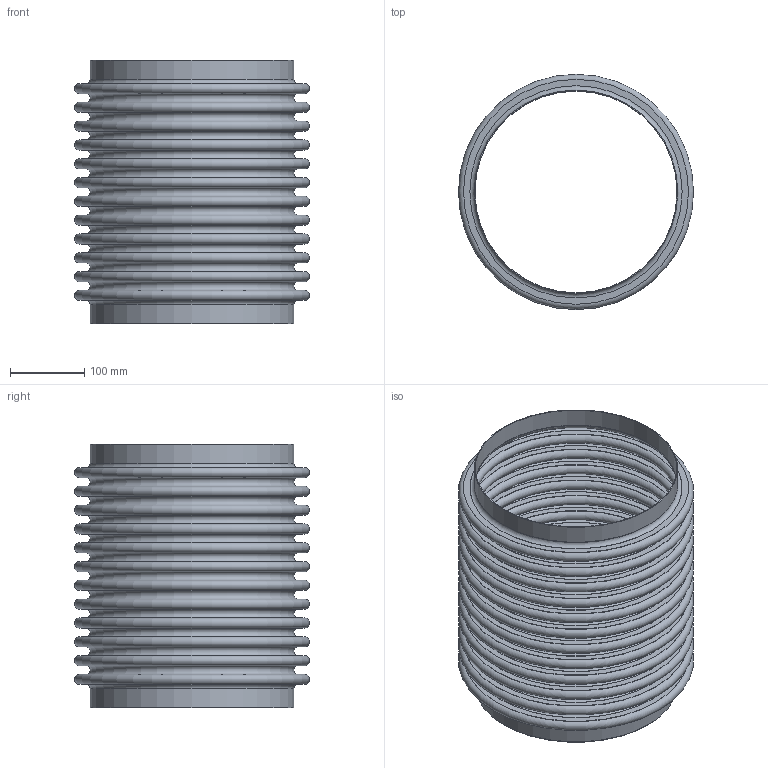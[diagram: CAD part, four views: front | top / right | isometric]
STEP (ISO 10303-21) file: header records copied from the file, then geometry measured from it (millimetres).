
FILE_DESCRIPTION(/* description */ (''),/* implementation_level */ '2;1');
FILE_NAME(/* name */ 'US-10-12-85L.stp',/* time_stamp */ '2026-07-21T11:13:47-05:00',/* author */ ('linda'),/* organization */ (''),/* preprocessor_version */ 'ST-DEVELOPER v20.1',/* originating_system */ 'Autodesk Inventor 2026',/* authorisation */ '');
FILE_SCHEMA (('AUTOMOTIVE_DESIGN { 1 0 10303 214 3 1 1 }'));
Length unit declared in the file: inch
Products named in the file (1): Part3
Bounding box: 317.5 x 317.5 x 355.6 mm (x, y, z)
Volume: 621383.9 mm3; surface area: 1363829.4 mm2
Topology: 3 solids, 3 shells, 108 faces, 162 edges, 109 vertices
Faces by surface type: plane 54, torus 50, cylinder 4
Full cylindrical faces by diameter (mm): 273.05 x2, 274.879 x2
Entity records: 2667 total; most frequent: DIRECTION 538, CARTESIAN_POINT 380, ORIENTED_EDGE 324, AXIS2_PLACEMENT_3D 267, EDGE_LOOP 162, EDGE_CURVE 162, CIRCLE 158, STYLED_ITEM 111
